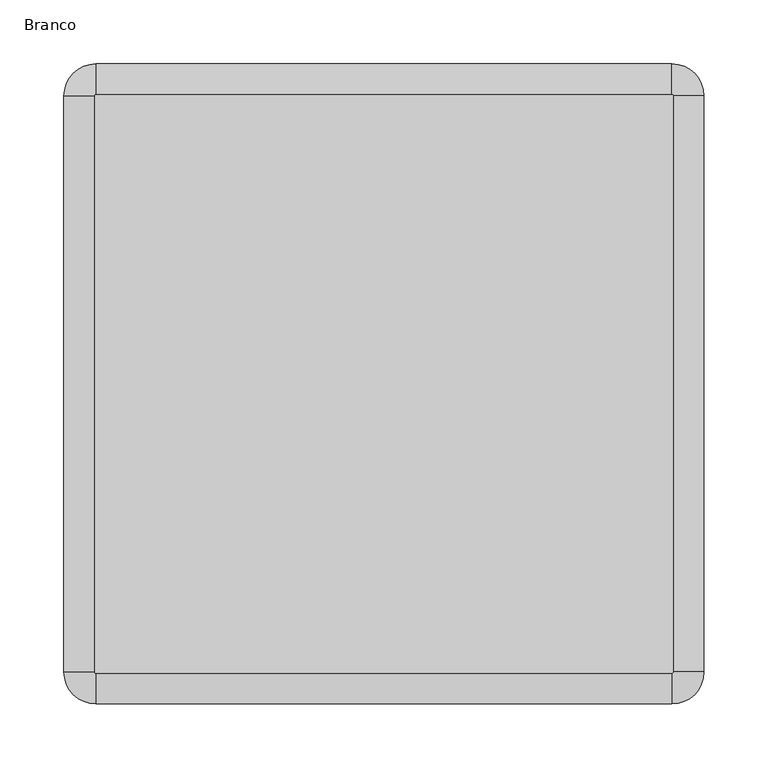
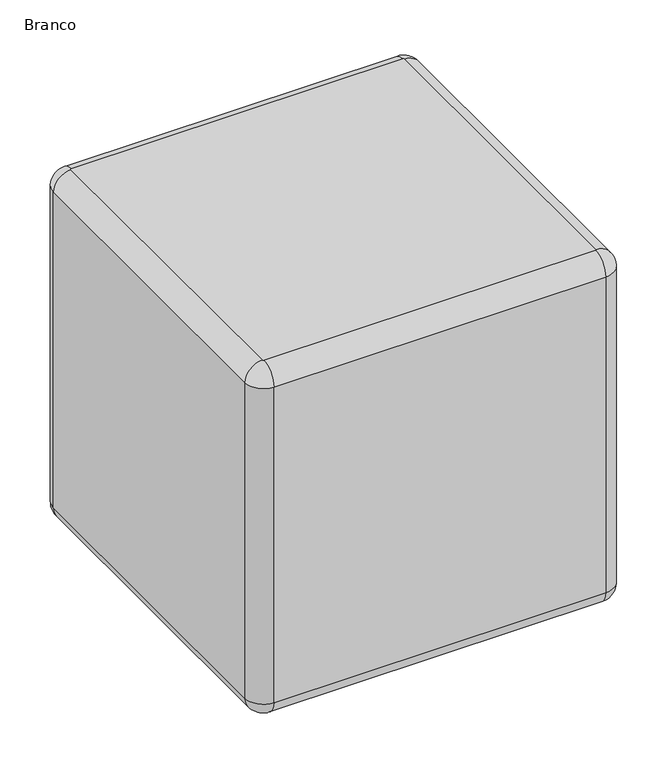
"""IFC4 building model written with IfcOpenShell, lengths in millimetres: furniture geometry, Blks_Mob_Blocks Revit_Cubo : Branco."""

from ifc_helpers import new_model, si_unit, point, frame, origin, place, context, project, spatial, circle_curve, ellipse_curve, trimmed, source, transform, mapped, element, save
from ifc_brep_helpers import plane_surface, cylinder_surface, revolved_surface, advanced_brep


def branco_22256ad2(model_context):
    return source(origin(), model_context, "Body", "AdvancedBrep", [
        advanced_brep(
        [(-225.0, 226.0, 500.0), (-226.0, 225.0, 500.0), (-226.0, -225.0, 500.0), (-225.0, -226.0, 500.0), (225.0, -226.0, 500.0), (226.0, -225.0, 500.0), (226.0, 225.0, 500.0), (225.0, 226.0, 500.0), (-226.0, 225.0, 0.0), (-225.0, 226.0, 0.0), (225.0, 226.0, 0.0), (226.0, 225.0, 0.0), (226.0, -225.0, 0.0), (225.0, -226.0, 0.0), (-225.0, -226.0, 0.0), (-226.0, -225.0, 0.0), (-225.0, -250.0, 476.0), (-225.0, -250.0, 24.0), (225.0, -250.0, 24.0), (225.0, -250.0, 476.0), (250.0, -225.0, 476.0), (250.0, -225.0, 24.0), (250.0, 225.0, 24.0), (250.0, 225.0, 476.0), (225.0, 250.0, 476.0), (225.0, 250.0, 24.0), (-225.0, 250.0, 24.0), (-225.0, 250.0, 476.0), (-250.0, 225.0, 476.0), (-250.0, 225.0, 24.0), (-250.0, -225.0, 24.0), (-250.0, -225.0, 476.0)],
        [
            (0, 1, circle_curve(frame((-225.0, 225.0, 500.0), z_axis=(0.0, 0.0, 1.0), x_axis=(0.0, 1.0, 0.0)), 1.0)),
            (1, 2),
            (2, 3, circle_curve(frame((-225.0, -225.0, 500.0), z_axis=(0.0, 0.0, 1.0), x_axis=(-1.0, 0.0, 0.0)), 1.0)),
            (3, 4),
            (4, 5, circle_curve(frame((225.0, -225.0, 500.0), z_axis=(0.0, 0.0, 1.0), x_axis=(0.0, -1.0, 0.0)), 1.0)),
            (5, 6),
            (6, 7, circle_curve(frame((225.0, 225.0, 500.0), z_axis=(0.0, 0.0, 1.0), x_axis=(1.0, 0.0, 0.0)), 1.0)),
            (7, 0),
            (8, 9, circle_curve(frame((-225.0, 225.0, 0.0), z_axis=(0.0, 0.0, -1.0), x_axis=(0.0, 1.0, 0.0)), 1.0)),
            (9, 10),
            (10, 11, circle_curve(frame((225.0, 225.0, 0.0), z_axis=(0.0, 0.0, -1.0), x_axis=(1.0, 0.0, 0.0)), 1.0)),
            (11, 12),
            (12, 13, circle_curve(frame((225.0, -225.0, 0.0), z_axis=(0.0, 0.0, -1.0), x_axis=(0.0, -1.0, 0.0)), 1.0)),
            (13, 14),
            (14, 15, circle_curve(frame((-225.0, -225.0, 0.0), z_axis=(0.0, 0.0, -1.0), x_axis=(-1.0, 0.0, 0.0)), 1.0)),
            (15, 8),
            (16, 17),
            (17, 18),
            (18, 19),
            (19, 16),
            (20, 21),
            (21, 22),
            (22, 23),
            (23, 20),
            (24, 25),
            (25, 26),
            (26, 27),
            (27, 24),
            (28, 29),
            (29, 30),
            (30, 31),
            (31, 28),
            (16, 31, circle_curve(frame((-225.0, -225.0, 476.0), z_axis=(0.0, 0.0, -1.0), x_axis=(1.0, 0.0, 0.0)), 25.0)),
            (30, 17, circle_curve(frame((-225.0, -225.0, 24.0), z_axis=(0.0, 0.0, 1.0), x_axis=(1.0, 0.0, 0.0)), 25.0)),
            (20, 19, circle_curve(frame((225.0, -225.0, 476.0), z_axis=(0.0, 0.0, -1.0), x_axis=(1.0, 0.0, 0.0)), 25.0)),
            (18, 21, circle_curve(frame((225.0, -225.0, 24.0), z_axis=(0.0, 0.0, 1.0), x_axis=(1.0, 0.0, 0.0)), 25.0)),
            (24, 23, circle_curve(frame((225.0, 225.0, 476.0), z_axis=(0.0, 0.0, -1.0), x_axis=(1.0, 0.0, 0.0)), 25.0)),
            (22, 25, circle_curve(frame((225.0, 225.0, 24.0), z_axis=(0.0, 0.0, 1.0), x_axis=(1.0, 0.0, 0.0)), 25.0)),
            (28, 27, circle_curve(frame((-225.0, 225.0, 476.0), z_axis=(0.0, 0.0, -1.0), x_axis=(1.0, 0.0, 0.0)), 25.0)),
            (26, 29, circle_curve(frame((-225.0, 225.0, 24.0), z_axis=(0.0, 0.0, 1.0), x_axis=(1.0, 0.0, 0.0)), 25.0)),
            (28, 1, circle_curve(frame((-226.0, 225.0, 476.0), z_axis=(0.0, 1.0, 0.0), x_axis=(1.0, 0.0, 0.0)), 24.0)),
            (0, 27, circle_curve(frame((-225.0, 226.0, 476.0), z_axis=(-1.0, 0.0, 0.0), x_axis=(0.0, -1.0, 0.0)), 24.0)),
            (8, 29, circle_curve(frame((-226.0, 225.0, 24.0), z_axis=(0.0, 1.0, 0.0), x_axis=(1.0, 0.0, 0.0)), 24.0)),
            (26, 9, circle_curve(frame((-225.0, 226.0, 24.0), z_axis=(-1.0, 0.0, 0.0), x_axis=(0.0, -1.0, 0.0)), 24.0)),
            (31, 2, circle_curve(frame((-226.0, -225.0, 476.0), z_axis=(0.0, 1.0, 0.0), x_axis=(1.0, 0.0, 0.0)), 24.0)),
            (15, 30, circle_curve(frame((-226.0, -225.0, 24.0), z_axis=(0.0, 1.0, 0.0), x_axis=(1.0, 0.0, 0.0)), 24.0)),
            (16, 3, circle_curve(frame((-225.0, -226.0, 476.0), z_axis=(-1.0, 0.0, 0.0), x_axis=(0.0, 1.0, 0.0)), 24.0)),
            (14, 17, circle_curve(frame((-225.0, -226.0, 24.0), z_axis=(-1.0, 0.0, 0.0), x_axis=(0.0, 1.0, 0.0)), 24.0)),
            (19, 4, circle_curve(frame((225.0, -226.0, 476.0), z_axis=(-1.0, 0.0, 0.0), x_axis=(0.0, 1.0, 0.0)), 24.0)),
            (13, 18, circle_curve(frame((225.0, -226.0, 24.0), z_axis=(-1.0, 0.0, 0.0), x_axis=(0.0, 1.0, 0.0)), 24.0)),
            (20, 5, circle_curve(frame((226.0, -225.0, 476.0), z_axis=(0.0, -1.0, 0.0), x_axis=(-1.0, 0.0, 0.0)), 24.0)),
            (12, 21, circle_curve(frame((226.0, -225.0, 24.0), z_axis=(0.0, -1.0, 0.0), x_axis=(-1.0, 0.0, 0.0)), 24.0)),
            (23, 6, circle_curve(frame((226.0, 225.0, 476.0), z_axis=(0.0, -1.0, 0.0), x_axis=(-1.0, 0.0, 0.0)), 24.0)),
            (11, 22, circle_curve(frame((226.0, 225.0, 24.0), z_axis=(0.0, -1.0, 0.0), x_axis=(-1.0, 0.0, 0.0)), 24.0)),
            (24, 7, circle_curve(frame((225.0, 226.0, 476.0), z_axis=(1.0, 0.0, 0.0), x_axis=(0.0, -1.0, 0.0)), 24.0)),
            (10, 25, circle_curve(frame((225.0, 226.0, 24.0), z_axis=(1.0, 0.0, 0.0), x_axis=(0.0, -1.0, 0.0)), 24.0)),
        ],
        [
            plane_surface(frame((-200.0, -225.0, 500.0), z_axis=(0.0, 0.0, 1.0), x_axis=(0.0, 1.0, 0.0))),
            plane_surface(frame((-200.0, -225.0, 0.0), z_axis=(0.0, 0.0, -1.0), x_axis=(0.0, -1.0, 0.0))),
            plane_surface(frame((-225.0, -250.0, 500.0), z_axis=(0.0, -1.0, 0.0), x_axis=(0.0, 0.0, -1.0))),
            plane_surface(frame((250.0, -225.0, 500.0), z_axis=(1.0, 0.0, 0.0), x_axis=(0.0, 0.0, -1.0))),
            plane_surface(frame((225.0, 250.0, 500.0), z_axis=(0.0, 1.0, 0.0), x_axis=(0.0, 0.0, -1.0))),
            plane_surface(frame((-250.0, 225.0, 500.0), z_axis=(-1.0, 0.0, 0.0), x_axis=(0.0, 0.0, -1.0))),
            cylinder_surface(frame((-225.0, -225.0, 0.0), z_axis=(0.0, 0.0, 1.0), x_axis=(1.0, 0.0, 0.0)), 25.0),
            cylinder_surface(frame((225.0, -225.0, 0.0), z_axis=(0.0, 0.0, 1.0), x_axis=(1.0, 0.0, 0.0)), 25.0),
            cylinder_surface(frame((225.0, 225.0, 0.0), z_axis=(0.0, 0.0, 1.0), x_axis=(1.0, 0.0, 0.0)), 25.0),
            cylinder_surface(frame((-225.0, 225.0, 0.0), z_axis=(0.0, 0.0, 1.0), x_axis=(1.0, 0.0, 0.0)), 25.0),
            revolved_surface(trimmed(ellipse_curve(frame((-225.0, 226.0, 476.0), z_axis=(1.0, 0.0, 0.0), x_axis=(0.0, -1.0, 0.0)), 24.0, 24.0), [point((-225.0, 250.0, 476.0))], [point((-225.0, 226.0, 500.0))], True, "CARTESIAN"), (-225.0, 225.0, 500.0), (0.0, 0.0, 1.0)),
            revolved_surface(trimmed(ellipse_curve(frame((-225.0, 226.0, 24.0), z_axis=(1.0, 0.0, 0.0), x_axis=(0.0, -1.0, 0.0)), 24.0, 24.0), [point((-225.0, 226.0, 0.0))], [point((-225.0, 250.0, 24.0))], True, "CARTESIAN"), (-225.0, 225.0, 500.0), (0.0, 0.0, 1.0)),
            cylinder_surface(frame((-226.0, 225.0, 476.0), z_axis=(0.0, -1.0, 0.0), x_axis=(1.0, 0.0, 0.0)), 24.0),
            cylinder_surface(frame((-226.0, 225.0, 24.0), z_axis=(0.0, -1.0, 0.0), x_axis=(1.0, 0.0, 0.0)), 24.0),
            revolved_surface(trimmed(ellipse_curve(frame((-226.0, -225.0, 476.0), z_axis=(0.0, 1.0, 0.0), x_axis=(1.0, 0.0, 0.0)), 24.0, 24.0), [point((-250.0, -225.0, 476.0))], [point((-226.0, -225.0, 500.0))], True, "CARTESIAN"), (-225.0, -225.0, 500.0), (0.0, 0.0, 1.0)),
            revolved_surface(trimmed(ellipse_curve(frame((-226.0, -225.0, 24.0), z_axis=(0.0, 1.0, 0.0), x_axis=(1.0, 0.0, 0.0)), 24.0, 24.0), [point((-226.0, -225.0, 0.0))], [point((-250.0, -225.0, 24.0))], True, "CARTESIAN"), (-225.0, -225.0, 500.0), (0.0, 0.0, 1.0)),
            cylinder_surface(frame((-225.0, -226.0, 476.0), z_axis=(1.0, 0.0, 0.0), x_axis=(0.0, 1.0, 0.0)), 24.0),
            cylinder_surface(frame((-225.0, -226.0, 24.0), z_axis=(1.0, 0.0, 0.0), x_axis=(0.0, 1.0, 0.0)), 24.0),
            revolved_surface(trimmed(ellipse_curve(frame((225.0, -226.0, 476.0), z_axis=(-1.0, 0.0, 0.0), x_axis=(0.0, 1.0, 0.0)), 24.0, 24.0), [point((225.0, -250.0, 476.0))], [point((225.0, -226.0, 500.0))], True, "CARTESIAN"), (225.0, -225.0, 500.0), (0.0, 0.0, 1.0)),
            revolved_surface(trimmed(ellipse_curve(frame((225.0, -226.0, 24.0), z_axis=(-1.0, 0.0, 0.0), x_axis=(0.0, 1.0, 0.0)), 24.0, 24.0), [point((225.0, -226.0, 0.0))], [point((225.0, -250.0, 24.0))], True, "CARTESIAN"), (225.0, -225.0, 500.0), (0.0, 0.0, 1.0)),
            cylinder_surface(frame((226.0, -225.0, 476.0), z_axis=(0.0, 1.0, 0.0), x_axis=(-1.0, 0.0, 0.0)), 24.0),
            cylinder_surface(frame((226.0, -225.0, 24.0), z_axis=(0.0, 1.0, 0.0), x_axis=(-1.0, 0.0, 0.0)), 24.0),
            revolved_surface(trimmed(ellipse_curve(frame((226.0, 225.0, 476.0), z_axis=(0.0, -1.0, 0.0), x_axis=(-1.0, 0.0, 0.0)), 24.0, 24.0), [point((250.0, 225.0, 476.0))], [point((226.0, 225.0, 500.0))], True, "CARTESIAN"), (225.0, 225.0, 500.0), (0.0, 0.0, 1.0)),
            revolved_surface(trimmed(ellipse_curve(frame((226.0, 225.0, 24.0), z_axis=(0.0, -1.0, 0.0), x_axis=(-1.0, 0.0, 0.0)), 24.0, 24.0), [point((226.0, 225.0, 0.0))], [point((250.0, 225.0, 24.0))], True, "CARTESIAN"), (225.0, 225.0, 500.0), (0.0, 0.0, 1.0)),
            cylinder_surface(frame((225.0, 226.0, 476.0), z_axis=(-1.0, 0.0, 0.0), x_axis=(0.0, -1.0, 0.0)), 24.0),
            cylinder_surface(frame((225.0, 226.0, 24.0), z_axis=(-1.0, 0.0, 0.0), x_axis=(0.0, -1.0, 0.0)), 24.0),
        ],
        [
            (0, [[1, 2, 3, 4, 5, 6, 7, 8]]),
            (1, [[9, 10, 11, 12, 13, 14, 15, 16]]),
            (2, [[17, 18, 19, 20]]),
            (3, [[21, 22, 23, 24]]),
            (4, [[25, 26, 27, 28]]),
            (5, [[29, 30, 31, 32]]),
            (6, [[-17, 33, -31, 34]]),
            (7, [[-21, 35, -19, 36]]),
            (8, [[-25, 37, -23, 38]]),
            (9, [[-29, 39, -27, 40]]),
            (10, [[41, -1, 42, -39]]),
            (11, [[43, -40, 44, -9]]),
            (12, [[-41, -32, 45, -2]]),
            (13, [[-43, -16, 46, -30]]),
            (14, [[-45, -33, 47, -3]]),
            (15, [[-46, -15, 48, -34]]),
            (16, [[-47, -20, 49, -4]]),
            (17, [[-48, -14, 50, -18]]),
            (18, [[-49, -35, 51, -5]]),
            (19, [[-50, -13, 52, -36]]),
            (20, [[-51, -24, 53, -6]]),
            (21, [[-52, -12, 54, -22]]),
            (22, [[-53, -37, 55, -7]]),
            (23, [[-54, -11, 56, -38]]),
            (24, [[-42, -8, -55, -28]]),
            (25, [[-44, -26, -56, -10]]),
        ],
    ),
    ])


if __name__ == "__main__":
    model = new_model("IFC4")
    model_context = context("Model", 3, world=origin())
    ifc_project = project(units=[si_unit("LENGTHUNIT", "METRE", prefix="MILLI")], contexts=[model_context])
    site = spatial("IfcSite", under=ifc_project)
    building = spatial("IfcBuilding", under=site)
    placement = place(None, origin())
    branco_shape = branco_22256ad2(model_context)
    element("IfcFurniture", 1, ObjectType="Blks_Mob_Blocks Revit_Cubo : Branco", at=placement, inside=building, context=model_context, shape_type="MappedRepresentation", body=[
        mapped(branco_shape, transform((0.0, 0.0, 0.0), x_axis=(1.0, 0.0, 0.0), y_axis=(0.0, 1.0, 0.0), z_axis=(0.0, 0.0, 1.0))),
    ])
    save(model, "model.ifc")
